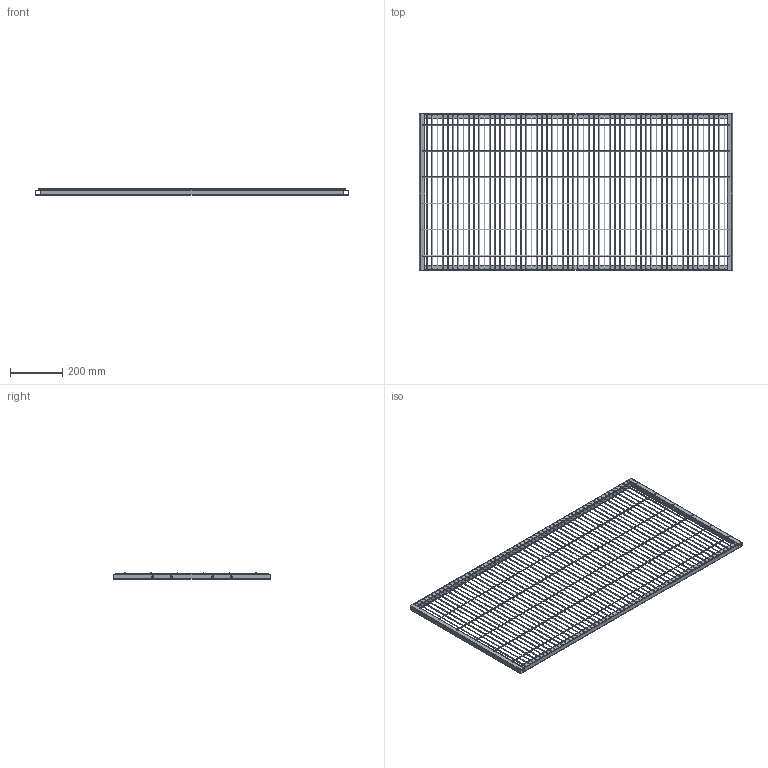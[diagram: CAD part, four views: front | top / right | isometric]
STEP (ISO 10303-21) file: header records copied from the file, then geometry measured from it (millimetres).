
FILE_DESCRIPTION (( 'STEP AP203' ), '1' );
FILE_NAME ('Framed Panel 1200 x 600.STEP', '2023-09-15T16:52:14', ( '' ), ( '' ), 'SwSTEP 2.0', 'SolidWorks 2023', '' );
FILE_SCHEMA (( 'CONFIG_CONTROL_DESIGN' ));
Length unit declared in the file: millimetre
Products named in the file (1): Framed Panel 1200 x 600
Bounding box: 1200 x 600 x 25.98 mm (x, y, z)
Volume: 670115.1 mm3; surface area: 895857.1 mm2
Topology: 68 solids, 68 shells, 360 faces, 672 edges, 448 vertices
Faces by surface type: cylinder 192, plane 168
Entity records: 9163 total; most frequent: DIRECTION 1778, CARTESIAN_POINT 1481, ORIENTED_EDGE 1344, AXIS2_PLACEMENT_3D 745, EDGE_CURVE 672, VERTEX_POINT 448, EDGE_LOOP 400, CIRCLE 384
